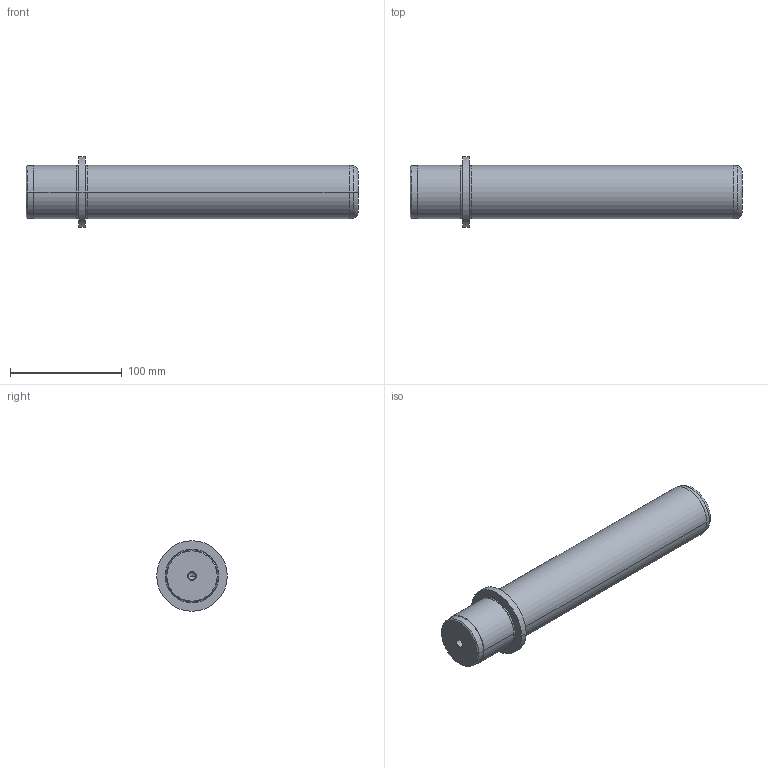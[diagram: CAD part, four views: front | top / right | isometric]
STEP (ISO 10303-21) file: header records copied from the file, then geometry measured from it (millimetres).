
FILE_DESCRIPTION( ( 'STEP AP203' ), '1' );
FILE_NAME( 'D:/Delta 3 D/D00/D00 - 48x250x47.step', '2003-01-02T07:18:21', ( ' ' ), ( ' ' ), 'XStep 1.0', ' ', ' ' );
FILE_SCHEMA( ( 'CONFIG_CONTROL_DESIGN' ) );
Length unit declared in the file: metre
Products named in the file (1): 1
Bounding box: 297 x 63 x 63 mm (x, y, z)
Volume: 541120.7 mm3; surface area: 52245.1 mm2
Topology: 1 solids, 1 shells, 39 faces, 78 edges, 48 vertices
Faces by surface type: revolution 28, bspline 11
Entity records: 1137 total; most frequent: CARTESIAN_POINT 277, DIRECTION 154, ORIENTED_EDGE 152, EDGE_CURVE 76, AXIS2_PLACEMENT_3D 49, EDGE_LOOP 48, VERTEX_POINT 48, CIRCLE 48
